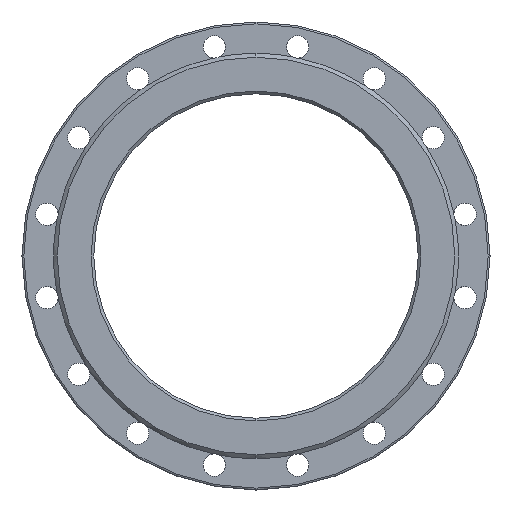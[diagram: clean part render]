
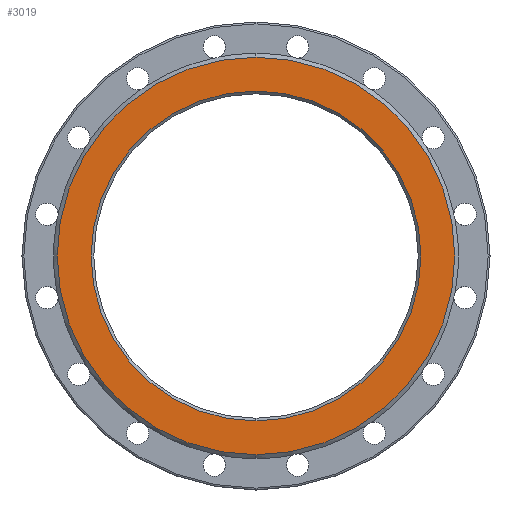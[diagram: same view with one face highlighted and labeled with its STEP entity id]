
A CAD part, left-side view. The second image highlights one B-rep face of the part: STEP entity #3019.
In plain terms, the highlighted planar face has unit normal (-1, 0, 0).
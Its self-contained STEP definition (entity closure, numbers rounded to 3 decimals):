
#40 = CIRCLE ( 'NONE', #167, 214.5 ) ;
#101 = ORIENTED_EDGE ( 'NONE', *, *, #6573, .T. ) ;
#150 = AXIS2_PLACEMENT_3D ( 'NONE', #2755, #3769, #592 ) ;
#167 = AXIS2_PLACEMENT_3D ( 'NONE', #3349, #3415, #6562 ) ;
#361 = CIRCLE ( 'NONE', #4554, 178. ) ;
#547 = FACE_BOUND ( 'NONE', #3173, .T. ) ;
#592 = DIRECTION ( 'NONE',  ( 0., 0., -1. ) ) ;
#1288 = DIRECTION ( 'NONE',  ( 0., 0., -1. ) ) ;
#1462 = VERTEX_POINT ( 'NONE', #5167 ) ;
#1484 = PLANE ( 'NONE',  #6308 ) ;
#2308 = CIRCLE ( 'NONE', #4680, 214.5 ) ;
#2347 = EDGE_CURVE ( 'Defeatured_0_4+Defeatured_0_96+Defeatured_0_96+Defeatured_0_96', #4150, #5814, #3695, .T. ) ;
#2372 = ORIENTED_EDGE ( 'NONE', *, *, #5257, .T. ) ;
#2755 = CARTESIAN_POINT ( 'NONE',  ( -350., 0., 0. ) ) ;
#3004 = CARTESIAN_POINT ( 'NONE',  ( -350., 175., 0. ) ) ;
#3019 = ADVANCED_FACE ( 'Defeatured_0_4', ( #547, #6124 ), #1484, .F. ) ;
#3173 = EDGE_LOOP ( 'NONE', ( #2372, #6554 ) ) ;
#3224 = DIRECTION ( 'NONE',  ( 1., 0., 0. ) ) ;
#3349 = CARTESIAN_POINT ( 'NONE',  ( -350., 0., 0. ) ) ;
#3415 = DIRECTION ( 'NONE',  ( -1., 0., 0. ) ) ;
#3447 = EDGE_CURVE ( 'Defeatured_0_4+Defeatured_0_0+Defeatured_0_0+Defeatured_0_0', #5359, #1462, #2308, .T. ) ;
#3695 = CIRCLE ( 'NONE', #150, 178. ) ;
#3769 = DIRECTION ( 'NONE',  ( 1., 0., 0. ) ) ;
#4150 = VERTEX_POINT ( 'NONE', #4480 ) ;
#4480 = CARTESIAN_POINT ( 'NONE',  ( -350., 0., -178. ) ) ;
#4554 = AXIS2_PLACEMENT_3D ( 'NONE', #6409, #3224, #1288 ) ;
#4617 = DIRECTION ( 'NONE',  ( -1., 0., 0. ) ) ;
#4653 = DIRECTION ( 'NONE',  ( 0., 0., 1. ) ) ;
#4680 = AXIS2_PLACEMENT_3D ( 'NONE', #5094, #4617, #4653 ) ;
#5094 = CARTESIAN_POINT ( 'NONE',  ( -350., 0., 0. ) ) ;
#5096 = ORIENTED_EDGE ( 'NONE', *, *, #3447, .T. ) ;
#5167 = CARTESIAN_POINT ( 'NONE',  ( -350., 0., -214.5 ) ) ;
#5257 = EDGE_CURVE ( 'Defeatured_0_4+Defeatured_0_96+Defeatured_0_96+Defeatured_0_96', #5814, #4150, #361, .T. ) ;
#5359 = VERTEX_POINT ( 'NONE', #5511 ) ;
#5511 = CARTESIAN_POINT ( 'NONE',  ( -350., 0., 214.5 ) ) ;
#5583 = DIRECTION ( 'NONE',  ( 0., 0., -1. ) ) ;
#5613 = DIRECTION ( 'NONE',  ( 1., 0., 0. ) ) ;
#5663 = EDGE_LOOP ( 'NONE', ( #101, #5096 ) ) ;
#5814 = VERTEX_POINT ( 'NONE', #6041 ) ;
#6041 = CARTESIAN_POINT ( 'NONE',  ( -350., 0., 178. ) ) ;
#6124 = FACE_OUTER_BOUND ( 'NONE', #5663, .T. ) ;
#6308 = AXIS2_PLACEMENT_3D ( 'NONE', #3004, #5613, #5583 ) ;
#6409 = CARTESIAN_POINT ( 'NONE',  ( -350., 0., 0. ) ) ;
#6554 = ORIENTED_EDGE ( 'NONE', *, *, #2347, .T. ) ;
#6562 = DIRECTION ( 'NONE',  ( 0., 0., 1. ) ) ;
#6573 = EDGE_CURVE ( 'Defeatured_0_4+Defeatured_0_0+Defeatured_0_0+Defeatured_0_0', #1462, #5359, #40, .T. ) ;
